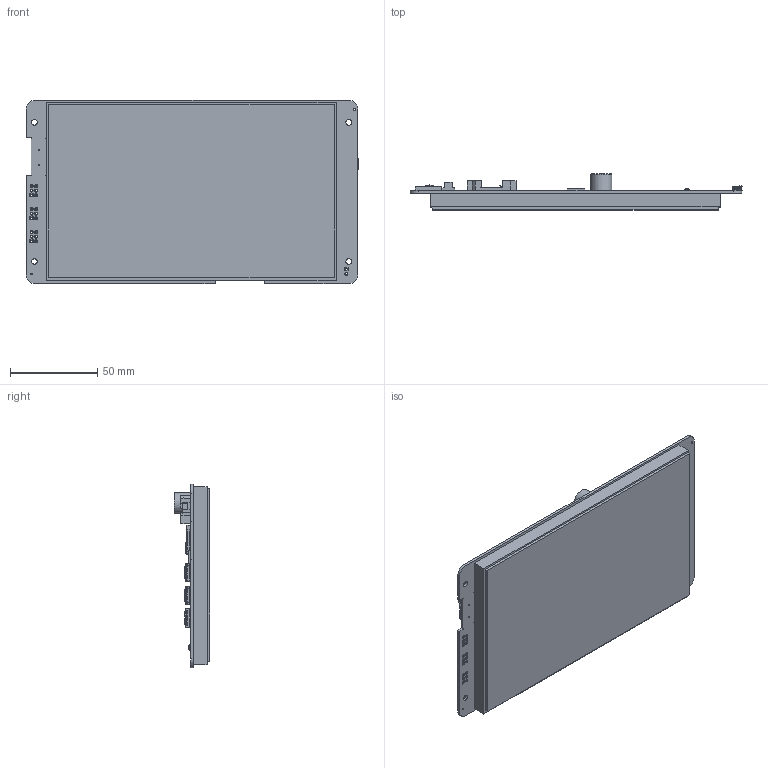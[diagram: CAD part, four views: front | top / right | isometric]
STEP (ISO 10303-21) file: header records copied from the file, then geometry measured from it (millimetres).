
FILE_DESCRIPTION(/* description */ (''),/* implementation_level */ '2;1');
FILE_NAME(/* name */ 'P80480-070T_L0101.stp',/* time_stamp */ '2024-05-02T09:24:02-03:00',/* author */ ('Reservaa'),/* organization */ (''),/* preprocessor_version */ 'ST-DEVELOPER v20',/* originating_system */ 'Autodesk Inventor 2024',/* authorisation */ '');
FILE_SCHEMA (('AUTOMOTIVE_DESIGN { 1 0 10303 214 3 1 1 }'));
Products named in the file (20): Assembly1; P80480-070T-L01; Placa J70L_T01; BM08B-SRSS; sd; User Library-CR2032_Holder; User Library-CR2032_Holder_Holder_Domyslna; User Library-CR2032_Holder_Pin_minus_Domyslna; User Library-CR2032_Holder_Pin_plus_Domyslna; AB2_USB_MICRO_SMD; buzzer; Tela J70L_T01; Vidro da Tela J70L_T01; F1C100S; Body; ThermalPin; PinsArrayLR; PinsArrayTB; botao_reset; bateria
Assembly tree (21 placements, depth 4):
  Assembly1
    P80480-070T-L01
      Placa J70L_T01
      BM08B-SRSS  x3
      sd
      User Library-CR2032_Holder
        User Library-CR2032_Holder_Holder_Domyslna
        User Library-CR2032_Holder_Pin_minus_Domyslna
        User Library-CR2032_Holder_Pin_plus_Domyslna
      AB2_USB_MICRO_SMD
      buzzer
      Tela J70L_T01
      Vidro da Tela J70L_T01
      F1C100S
        Body
        ThermalPin
        PinsArrayLR
        PinsArrayTB
      botao_reset
      bateria
Bounding box: 190.4 x 20.5 x 105.2 mm (x, y, z)
Volume: 192907.1 mm3; surface area: 117176.2 mm2
Topology: 108 solids, 108 shells, 2504 faces, 6003 edges, 3775 vertices
Faces by surface type: plane 2272, cylinder 209, cone 11, sphere 8, torus 4
Full cylindrical faces by diameter (mm): 0.4 x4, 0.5 x4, 0.8 x2, 1 x6, 1.2 x20, 1.25 x1, 1.7 x31, 1.8 x1, 2 x2, 2.5 x1, 3.3 x4, 12 x1
Entity records: 65347 total; most frequent: CARTESIAN_POINT 10951, ORIENTED_EDGE 10634, DIRECTION 10391, EDGE_CURVE 5317, LINE 4817, VECTOR 4817, VERTEX_POINT 3321, AXIS2_PLACEMENT_3D 2787
